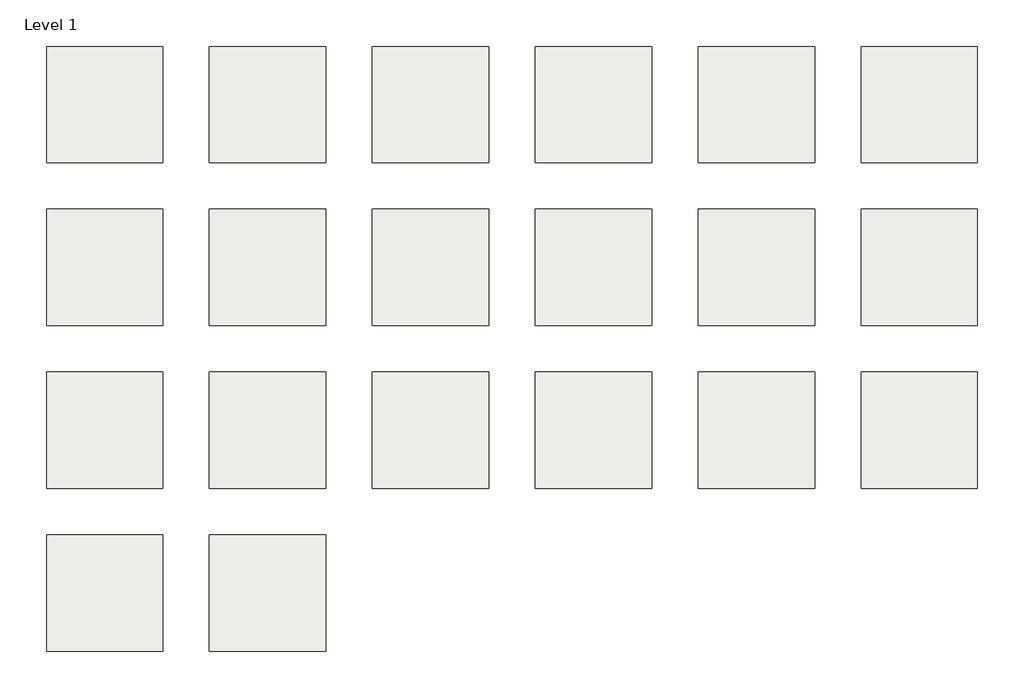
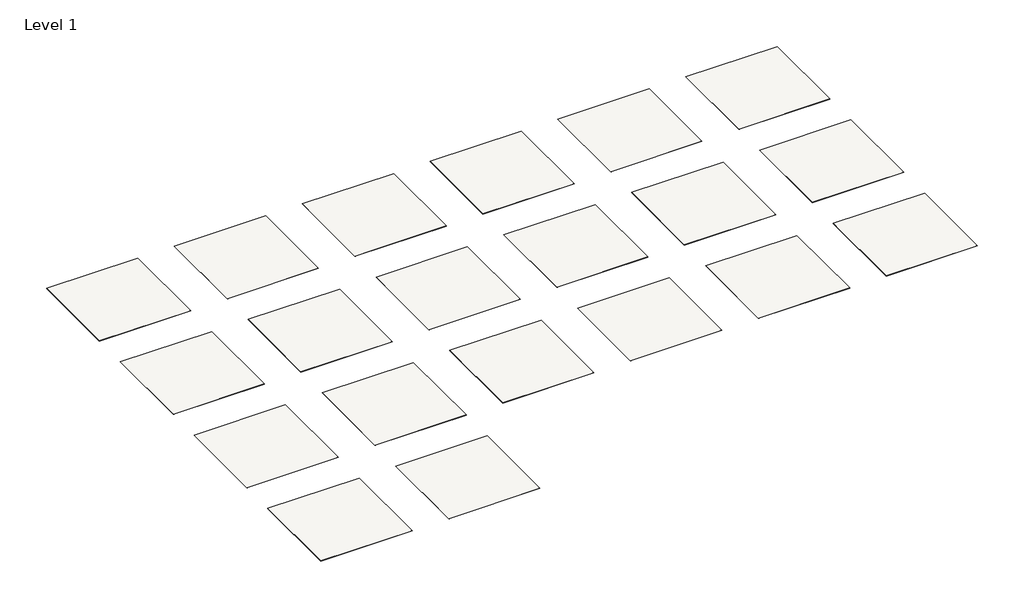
# One storey: 20 slabs.
"""IFC4 building model written with IfcOpenShell, lengths in millimetres."""

from ifc_helpers import new_model, si_unit, frame, origin, place, context, project, spatial, polyline, outline, extrude, element, save

model = new_model("IFC4")

# Units and contexts
model_context = context("Model", 3, world=origin())
ifc_project = project(units=[si_unit("LENGTHUNIT", "METRE", prefix="MILLI")], contexts=[model_context])

# Site, building, storey
site = spatial("IfcSite", under=ifc_project)
building = spatial("IfcBuilding", under=site)
storey = spatial("IfcBuildingStorey", under=building, Name="Level 1", Elevation=0.0)

# Slabs
placement = place(None, origin())
element("IfcSlab", 1, ObjectType="AHF Contract®_Vinyl Composition Tile_CR001_Dynastic White", at=placement, inside=storey, context=model_context, shape_type="SweptSolid", body=[
    extrude(outline(polyline([(1219.2, 6400.8), (1219.2, 4876.8), (-304.8, 4876.8), (-304.8, 6400.8), (1219.2, 6400.8)])), frame((0.0, 0.0, -3.175), z_axis=(0.0, 0.0, 1.0), x_axis=(1.0, 0.0, 0.0)), (0.0, 0.0, 1.0), 3.175),
])
element("IfcSlab", 2, ObjectType="AHF Contract®_Vinyl Composition Tile_CR002_Glorious Beige", at=placement, inside=storey, context=model_context, shape_type="SweptSolid", body=[
    extrude(outline(polyline([(3352.8, 6400.8), (3352.8, 4876.8), (1828.8, 4876.8), (1828.8, 6400.8), (3352.8, 6400.8)])), frame((0.0, 0.0, -3.175), z_axis=(0.0, 0.0, 1.0), x_axis=(1.0, 0.0, 0.0)), (0.0, 0.0, 1.0), 3.175),
])
element("IfcSlab", 3, ObjectType="AHF Contract®_Vinyl Composition Tile_CR003_Sovereign Gray", at=placement, inside=storey, context=model_context, shape_type="SweptSolid", body=[
    extrude(outline(polyline([(5486.4, 6400.8), (5486.4, 4876.8), (3962.4, 4876.8), (3962.4, 6400.8), (5486.4, 6400.8)])), frame((0.0, 0.0, -3.175), z_axis=(0.0, 0.0, 1.0), x_axis=(1.0, 0.0, 0.0)), (0.0, 0.0, 1.0), 3.175),
])
element("IfcSlab", 4, ObjectType="AHF Contract®_Vinyl Composition Tile_CR004_Royal Silver", at=placement, inside=storey, context=model_context, shape_type="SweptSolid", body=[
    extrude(outline(polyline([(7620.0, 6400.8), (7620.0, 4876.8), (6096.0, 4876.8), (6096.0, 6400.8), (7620.0, 6400.8)])), frame((0.0, 0.0, -3.175), z_axis=(0.0, 0.0, 1.0), x_axis=(1.0, 0.0, 0.0)), (0.0, 0.0, 1.0), 3.175),
])
element("IfcSlab", 5, ObjectType="AHF Contract®_Vinyl Composition Tile_CR005_Falcon Gray", at=placement, inside=storey, context=model_context, shape_type="SweptSolid", body=[
    extrude(outline(polyline([(9753.6, 6400.8), (9753.6, 4876.8), (8229.6, 4876.8), (8229.6, 6400.8), (9753.6, 6400.8)])), frame((0.0, 0.0, -3.175), z_axis=(0.0, 0.0, 1.0), x_axis=(1.0, 0.0, 0.0)), (0.0, 0.0, 1.0), 3.175),
])
element("IfcSlab", 6, ObjectType="AHF Contract®_Vinyl Composition Tile_CR006_Imperial Black", at=placement, inside=storey, context=model_context, shape_type="SweptSolid", body=[
    extrude(outline(polyline([(11887.2, 6400.8), (11887.2, 4876.8), (10363.2, 4876.8), (10363.2, 6400.8), (11887.2, 6400.8)])), frame((0.0, 0.0, -3.175), z_axis=(0.0, 0.0, 1.0), x_axis=(1.0, 0.0, 0.0)), (0.0, 0.0, 1.0), 3.175),
])
element("IfcSlab", 7, ObjectType="AHF Contract®_Vinyl Composition Tile_CR007_Ermine White", at=placement, inside=storey, context=model_context, shape_type="SweptSolid", body=[
    extrude(outline(polyline([(1219.2, 4267.2), (1219.2, 2743.2), (-304.8, 2743.2), (-304.8, 4267.2), (1219.2, 4267.2)])), frame((0.0, 0.0, -3.175), z_axis=(0.0, 0.0, 1.0), x_axis=(1.0, 0.0, 0.0)), (0.0, 0.0, 1.0), 3.175),
])
element("IfcSlab", 8, ObjectType="AHF Contract®_Vinyl Composition Tile_CR008_Crystal Gray", at=placement, inside=storey, context=model_context, shape_type="SweptSolid", body=[
    extrude(outline(polyline([(3352.8, 4267.2), (3352.8, 2743.2), (1828.8, 2743.2), (1828.8, 4267.2), (3352.8, 4267.2)])), frame((0.0, 0.0, -3.175), z_axis=(0.0, 0.0, 1.0), x_axis=(1.0, 0.0, 0.0)), (0.0, 0.0, 1.0), 3.175),
])
element("IfcSlab", 9, ObjectType="AHF Contract®_Vinyl Composition Tile_CR009_Dominant Gray", at=placement, inside=storey, context=model_context, shape_type="SweptSolid", body=[
    extrude(outline(polyline([(5486.4, 4267.2), (5486.4, 2743.2), (3962.4, 2743.2), (3962.4, 4267.2), (5486.4, 4267.2)])), frame((0.0, 0.0, -3.175), z_axis=(0.0, 0.0, 1.0), x_axis=(1.0, 0.0, 0.0)), (0.0, 0.0, 1.0), 3.175),
])
element("IfcSlab", 10, ObjectType="AHF Contract®_Vinyl Composition Tile_CR010_Triumphal Gray", at=placement, inside=storey, context=model_context, shape_type="SweptSolid", body=[
    extrude(outline(polyline([(7620.0, 4267.2), (7620.0, 2743.2), (6096.0, 2743.2), (6096.0, 4267.2), (7620.0, 4267.2)])), frame((0.0, 0.0, -3.175), z_axis=(0.0, 0.0, 1.0), x_axis=(1.0, 0.0, 0.0)), (0.0, 0.0, 1.0), 3.175),
])
element("IfcSlab", 11, ObjectType="AHF Contract®_Vinyl Composition Tile_CR011_Citadel Gold", at=placement, inside=storey, context=model_context, shape_type="SweptSolid", body=[
    extrude(outline(polyline([(9753.6, 4267.2), (9753.6, 2743.2), (8229.6, 2743.2), (8229.6, 4267.2), (9753.6, 4267.2)])), frame((0.0, 0.0, -3.175), z_axis=(0.0, 0.0, 1.0), x_axis=(1.0, 0.0, 0.0)), (0.0, 0.0, 1.0), 3.175),
])
element("IfcSlab", 12, ObjectType="AHF Contract®_Vinyl Composition Tile_CR012_Glowing Light", at=placement, inside=storey, context=model_context, shape_type="SweptSolid", body=[
    extrude(outline(polyline([(11887.2, 4267.2), (11887.2, 2743.2), (10363.2, 2743.2), (10363.2, 4267.2), (11887.2, 4267.2)])), frame((0.0, 0.0, -3.175), z_axis=(0.0, 0.0, 1.0), x_axis=(1.0, 0.0, 0.0)), (0.0, 0.0, 1.0), 3.175),
])
element("IfcSlab", 13, ObjectType="AHF Contract®_Vinyl Composition Tile_CR013_Victorious Beige", at=placement, inside=storey, context=model_context, shape_type="SweptSolid", body=[
    extrude(outline(polyline([(1219.2, 2133.6), (1219.2, 609.6), (-304.8, 609.6), (-304.8, 2133.6), (1219.2, 2133.6)])), frame((0.0, 0.0, -3.175), z_axis=(0.0, 0.0, 1.0), x_axis=(1.0, 0.0, 0.0)), (0.0, 0.0, 1.0), 3.175),
])
element("IfcSlab", 14, ObjectType="AHF Contract®_Vinyl Composition Tile_CR014_Valor Green", at=placement, inside=storey, context=model_context, shape_type="SweptSolid", body=[
    extrude(outline(polyline([(3352.8, 2133.6), (3352.8, 609.6), (1828.8, 609.6), (1828.8, 2133.6), (3352.8, 2133.6)])), frame((0.0, 0.0, -3.175), z_axis=(0.0, 0.0, 1.0), x_axis=(1.0, 0.0, 0.0)), (0.0, 0.0, 1.0), 3.175),
])
element("IfcSlab", 15, ObjectType="AHF Contract®_Vinyl Composition Tile_CR015_Noble Blue", at=placement, inside=storey, context=model_context, shape_type="SweptSolid", body=[
    extrude(outline(polyline([(5486.4, 2133.6), (5486.4, 609.6), (3962.4, 609.6), (3962.4, 2133.6), (5486.4, 2133.6)])), frame((0.0, 0.0, -3.175), z_axis=(0.0, 0.0, 1.0), x_axis=(1.0, 0.0, 0.0)), (0.0, 0.0, 1.0), 3.175),
])
element("IfcSlab", 16, ObjectType="AHF Contract®_Vinyl Composition Tile_CR016_Regal Linen", at=placement, inside=storey, context=model_context, shape_type="SweptSolid", body=[
    extrude(outline(polyline([(7620.0, 2133.6), (7620.0, 609.6), (6096.0, 609.6), (6096.0, 2133.6), (7620.0, 2133.6)])), frame((0.0, 0.0, -3.175), z_axis=(0.0, 0.0, 1.0), x_axis=(1.0, 0.0, 0.0)), (0.0, 0.0, 1.0), 3.175),
])
element("IfcSlab", 17, ObjectType="AHF Contract®_Vinyl Composition Tile_CR017_Hunt Passion", at=placement, inside=storey, context=model_context, shape_type="SweptSolid", body=[
    extrude(outline(polyline([(9753.6, 2133.6), (9753.6, 609.6), (8229.6, 609.6), (8229.6, 2133.6), (9753.6, 2133.6)])), frame((0.0, 0.0, -3.175), z_axis=(0.0, 0.0, 1.0), x_axis=(1.0, 0.0, 0.0)), (0.0, 0.0, 1.0), 3.175),
])
element("IfcSlab", 18, ObjectType="AHF Contract®_Vinyl Composition Tile_CR018_Queen Bliss", at=placement, inside=storey, context=model_context, shape_type="SweptSolid", body=[
    extrude(outline(polyline([(11887.2, 2133.6), (11887.2, 609.6), (10363.2, 609.6), (10363.2, 2133.6), (11887.2, 2133.6)])), frame((0.0, 0.0, -3.175), z_axis=(0.0, 0.0, 1.0), x_axis=(1.0, 0.0, 0.0)), (0.0, 0.0, 1.0), 3.175),
])
element("IfcSlab", 19, ObjectType="AHF Contract®_Vinyl Composition Tile_CR019_Leisure Green", at=placement, inside=storey, context=model_context, shape_type="SweptSolid", body=[
    extrude(outline(polyline([(1219.2, 0.0), (1219.2, -1524.0), (-304.8, -1524.0), (-304.8, 0.0), (1219.2, 0.0)])), frame((0.0, 0.0, -3.175), z_axis=(0.0, 0.0, 1.0), x_axis=(1.0, 0.0, 0.0)), (0.0, 0.0, 1.0), 3.175),
])
element("IfcSlab", 20, ObjectType="AHF Contract®_Vinyl Composition Tile_CR020_Porcelain Blue", at=placement, inside=storey, context=model_context, shape_type="SweptSolid", body=[
    extrude(outline(polyline([(3352.8, 0.0), (3352.8, -1524.0), (1828.8, -1524.0), (1828.8, 0.0), (3352.8, 0.0)])), frame((0.0, 0.0, -3.175), z_axis=(0.0, 0.0, 1.0), x_axis=(1.0, 0.0, 0.0)), (0.0, 0.0, 1.0), 3.175),
])

save(model, "model.ifc")
